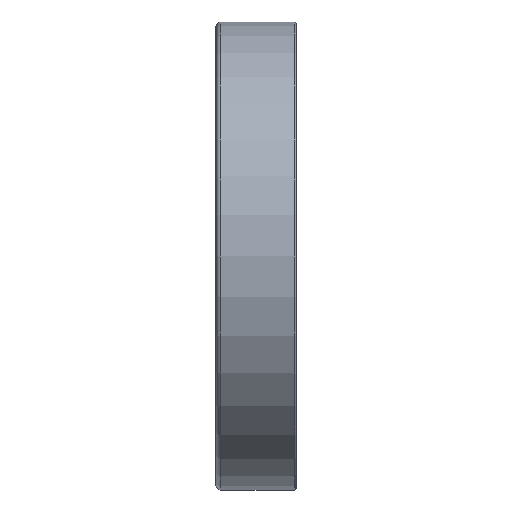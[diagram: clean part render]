
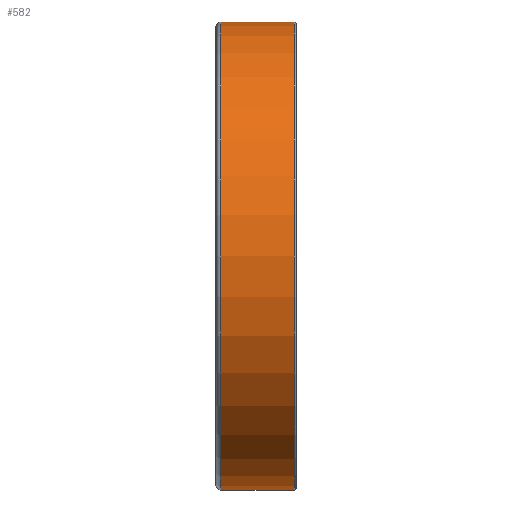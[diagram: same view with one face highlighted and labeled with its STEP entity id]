
A CAD part, front view. The second image highlights one B-rep face of the part: STEP entity #582.
In plain terms, the highlighted cylindrical face has radius 70 mm (diameter 140 mm), a full revolution.
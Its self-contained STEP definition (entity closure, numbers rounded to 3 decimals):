
#173=CYLINDRICAL_SURFACE('',#918,70.);
#281=EDGE_LOOP('',(#401));
#282=EDGE_LOOP('',(#402));
#401=ORIENTED_EDGE('',*,*,#469,.F.);
#402=ORIENTED_EDGE('',*,*,#467,.T.);
#467=EDGE_CURVE('',#841,#841,#487,.T.);
#469=EDGE_CURVE('',#843,#843,#489,.T.);
#487=CIRCLE('',#914,70.);
#489=CIRCLE('',#917,70.);
#582=ADVANCED_FACE('',(#735,#736),#173,.T.);
#735=FACE_BOUND('',#281,.T.);
#736=FACE_BOUND('',#282,.T.);
#841=VERTEX_POINT('',#1938);
#843=VERTEX_POINT('',#1943);
#914=AXIS2_PLACEMENT_3D('',#1937,#1048,#1049);
#917=AXIS2_PLACEMENT_3D('',#1942,#1054,#1055);
#918=AXIS2_PLACEMENT_3D('',#1944,#1056,#1057);
#1048=DIRECTION('',(1.,0.,0.));
#1049=DIRECTION('',(0.,0.,-1.));
#1054=DIRECTION('',(1.,0.,0.));
#1055=DIRECTION('',(0.,0.,-1.));
#1056=DIRECTION('',(1.,0.,0.));
#1057=DIRECTION('',(0.,0.,-1.));
#1937=CARTESIAN_POINT('',(-10.5,0.,0.));
#1938=CARTESIAN_POINT('',(-10.5,0.,-70.));
#1942=CARTESIAN_POINT('',(11.4,0.,0.));
#1943=CARTESIAN_POINT('',(11.4,0.,-70.));
#1944=CARTESIAN_POINT('',(-10.5,0.,0.));
